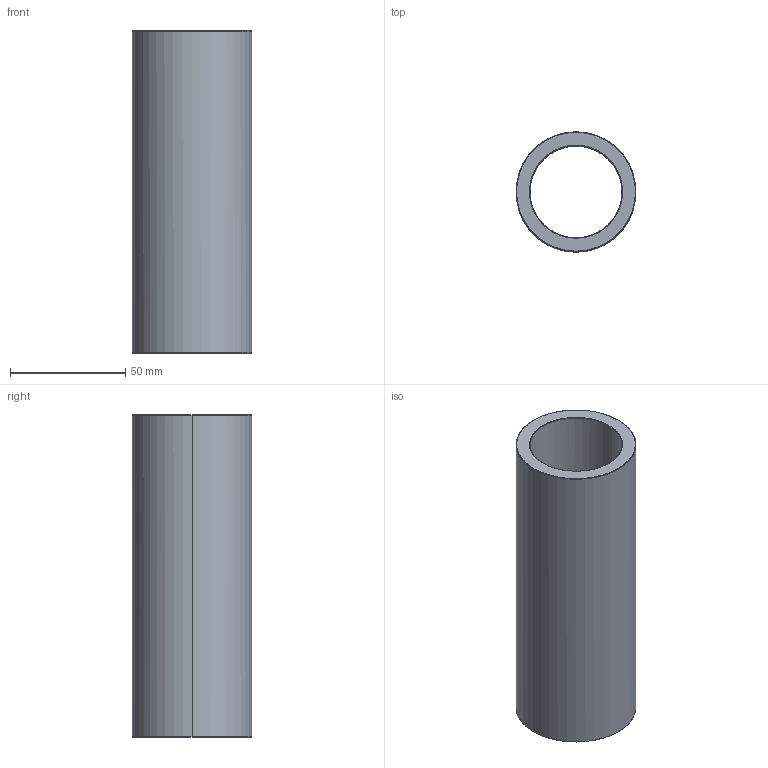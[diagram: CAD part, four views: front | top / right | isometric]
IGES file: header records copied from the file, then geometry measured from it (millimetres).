
Start section: Write IGES format                                    datakit 2008 (c)
Global section: file name: Unknown; native system: DATAKIT Converter; preprocessor: Unknown; author: Unknown; organization: Unknown; date: 950613.180003; units: millimetre
Bounding box: 52 x 52 x 140 mm (x, y, z)
Surface area: 42130.1 mm2 (no closed solid volume)
Topology: 0 solids, 0 shells, 14 faces, 56 edges, 56 vertices
Faces by surface type: revolution 12, bspline 2
